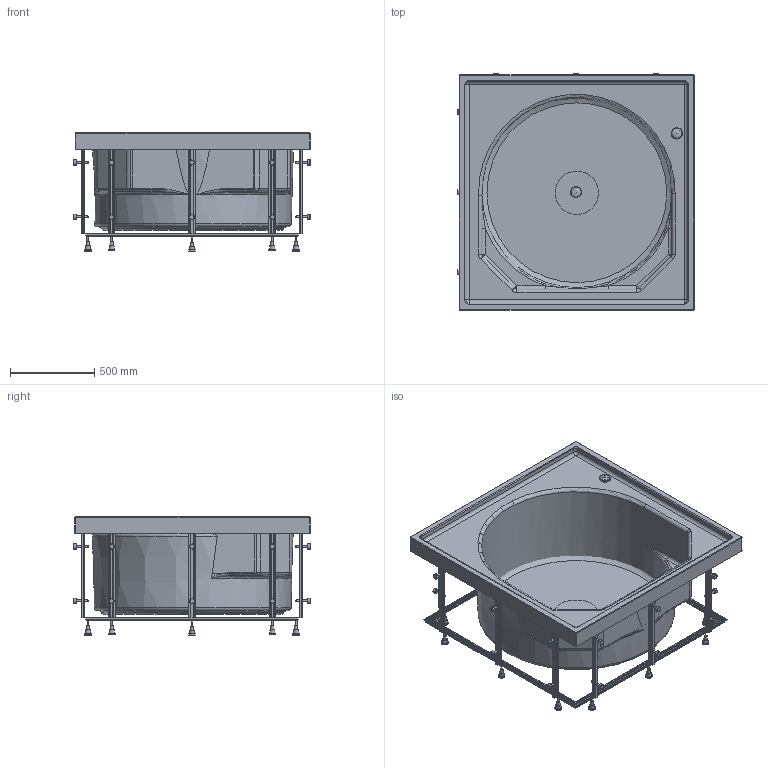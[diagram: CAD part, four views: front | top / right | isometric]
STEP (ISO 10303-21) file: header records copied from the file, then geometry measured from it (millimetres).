
FILE_DESCRIPTION((''),'2;1');
FILE_NAME('C:\Dokumente und Einstellungen\Andreas\Desktop\DURAVIT WINDOWS\ÄnderungenNeuheiten 4\Änderung Blue Moon\3D_ÄNDERUNGEN_BLUE MOON\stp\700143oEmF.stp','2009-06-30T10:38:43',('Andreas'),(''),'Autodesk Inventor 2009','Autodesk Inventor 2009','');
FILE_SCHEMA(('AUTOMOTIVE_DESIGN { 1 0 10303 214 1 1 1 1 }'));
Length unit declared in the file: millimetre
Products named in the file (9): 700143oEmF; 700143; Kelch; Stopfen; Fusgestell; Rahmen1; Rahmen3; Schraube; Fuss
Assembly tree (58 placements, depth 3):
  700143oEmF
    700143
    Kelch  x2
    Stopfen  x2
    Fusgestell
      Rahmen1  x4
      Rahmen3  x12
      Schraube  x24
      Fuss  x12
Bounding box: 1409.45 x 1409.45 x 705 mm (x, y, z)
Volume: 78290480.3 mm3; surface area: 16834627 mm2
Topology: 58 solids, 58 shells, 914 faces, 2039 edges, 1299 vertices
Faces by surface type: plane 566, cylinder 204, torus 73, cone 44, bspline 23, sphere 4
Full cylindrical faces by diameter (mm): 10 x24, 12 x48, 17.756 x12, 30 x24, 40 x12, 42 x2, 44 x2, 52 x4, 60 x2, 258.158 x1, 1070 x1, 1130 x1, 1150 x1
Entity records: 10753 total; most frequent: CARTESIAN_POINT 4349, DIRECTION 1339, ORIENTED_EDGE 1136, EDGE_CURVE 568, AXIS2_PLACEMENT_3D 510, VERTEX_POINT 371, EDGE_LOOP 327, VECTOR 319
